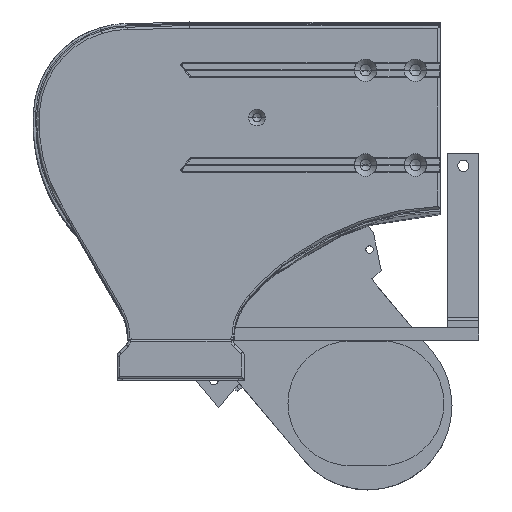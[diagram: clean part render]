
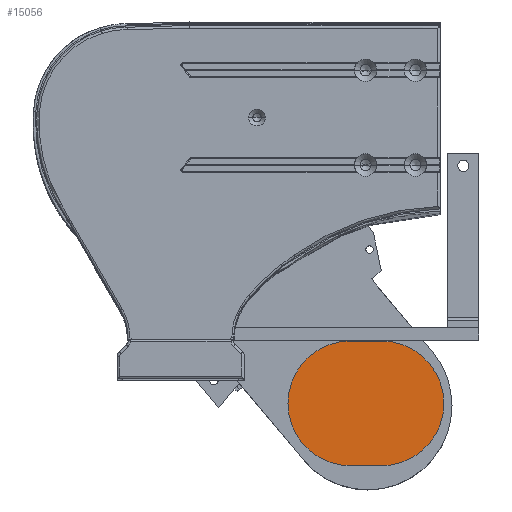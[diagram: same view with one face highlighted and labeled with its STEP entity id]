
A CAD part, top view. The second image highlights one B-rep face of the part: STEP entity #15056.
In plain terms, the highlighted planar face has unit normal (0, 0, 1).
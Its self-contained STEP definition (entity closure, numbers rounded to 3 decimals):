
#678 = FACE_OUTER_BOUND ( 'NONE', #23413, .T. ) ;
#1209 = EDGE_CURVE ( 'NONE', #21492, #4548, #25827, .T. ) ;
#2231 = EDGE_CURVE ( 'NONE', #4548, #2972, #9460, .T. ) ;
#2237 = CARTESIAN_POINT ( 'NONE',  ( 243.011, -187.712, -394.5 ) ) ;
#2565 = DIRECTION ( 'NONE',  ( 0., 0., 1. ) ) ;
#2885 = LINE ( 'NONE', #18437, #19123 ) ;
#2923 = DIRECTION ( 'NONE',  ( 1., 0., 0. ) ) ;
#2972 = VERTEX_POINT ( 'NONE', #6690 ) ;
#4548 = VERTEX_POINT ( 'NONE', #8132 ) ;
#5187 = CARTESIAN_POINT ( 'NONE',  ( 0., 0., -394.5 ) ) ;
#5798 = DIRECTION ( 'NONE',  ( 0., 0., 1. ) ) ;
#6533 = AXIS2_PLACEMENT_3D ( 'NONE', #15246, #17416, #21777 ) ;
#6690 = CARTESIAN_POINT ( 'NONE',  ( 243.011, -187.712, -394.5 ) ) ;
#7306 = CIRCLE ( 'NONE', #7799, 65.5 ) ;
#7497 = ORIENTED_EDGE ( 'NONE', *, *, #2231, .T. ) ;
#7799 = AXIS2_PLACEMENT_3D ( 'NONE', #22014, #2565, #20364 ) ;
#8132 = CARTESIAN_POINT ( 'NONE',  ( 258.335, -229.814, -394.5 ) ) ;
#8479 = VERTEX_POINT ( 'NONE', #14204 ) ;
#9460 = CIRCLE ( 'NONE', #6533, 65.5 ) ;
#9890 = CARTESIAN_POINT ( 'NONE',  ( 192.835, -229.814, -394.5 ) ) ;
#9941 = AXIS2_PLACEMENT_3D ( 'NONE', #9890, #5798, #18885 ) ;
#11657 = DIRECTION ( 'NONE',  ( 0., 0., 1. ) ) ;
#13765 = PLANE ( 'NONE',  #20277 ) ;
#14204 = CARTESIAN_POINT ( 'NONE',  ( -50.176, -42.102, -394.5 ) ) ;
#15056 = ADVANCED_FACE ( 'NONE', ( #678 ), #13765, .T. ) ;
#15246 = CARTESIAN_POINT ( 'NONE',  ( 192.835, -229.814, -394.5 ) ) ;
#17054 = VECTOR ( 'NONE', #22159, 1000. ) ;
#17416 = DIRECTION ( 'NONE',  ( 0., 0., 1. ) ) ;
#17533 = ORIENTED_EDGE ( 'NONE', *, *, #27572, .T. ) ;
#17846 = CARTESIAN_POINT ( 'NONE',  ( 50.176, 42.102, -394.5 ) ) ;
#18437 = CARTESIAN_POINT ( 'NONE',  ( -50.176, -42.102, -394.5 ) ) ;
#18652 = VERTEX_POINT ( 'NONE', #17846 ) ;
#18729 = DIRECTION ( 'NONE',  ( 0.643, -0.766, 0. ) ) ;
#18885 = DIRECTION ( 'NONE',  ( 1., 0., 0. ) ) ;
#19123 = VECTOR ( 'NONE', #18729, 1000. ) ;
#19140 = EDGE_CURVE ( 'NONE', #18652, #8479, #7306, .T. ) ;
#20096 = EDGE_CURVE ( 'NONE', #8479, #21492, #2885, .T. ) ;
#20277 = AXIS2_PLACEMENT_3D ( 'NONE', #5187, #11657, #2923 ) ;
#20364 = DIRECTION ( 'NONE',  ( 1., 0., 0. ) ) ;
#21492 = VERTEX_POINT ( 'NONE', #26228 ) ;
#21777 = DIRECTION ( 'NONE',  ( 1., 0., 0. ) ) ;
#21927 = ORIENTED_EDGE ( 'NONE', *, *, #1209, .T. ) ;
#22014 = CARTESIAN_POINT ( 'NONE',  ( 0., 0., -394.5 ) ) ;
#22159 = DIRECTION ( 'NONE',  ( -0.643, 0.766, 0. ) ) ;
#23413 = EDGE_LOOP ( 'NONE', ( #27253, #24516, #21927, #7497, #17533 ) ) ;
#24189 = LINE ( 'NONE', #2237, #17054 ) ;
#24516 = ORIENTED_EDGE ( 'NONE', *, *, #20096, .T. ) ;
#25827 = CIRCLE ( 'NONE', #9941, 65.5 ) ;
#26228 = CARTESIAN_POINT ( 'NONE',  ( 142.659, -271.917, -394.5 ) ) ;
#27253 = ORIENTED_EDGE ( 'NONE', *, *, #19140, .T. ) ;
#27572 = EDGE_CURVE ( 'NONE', #2972, #18652, #24189, .T. ) ;
